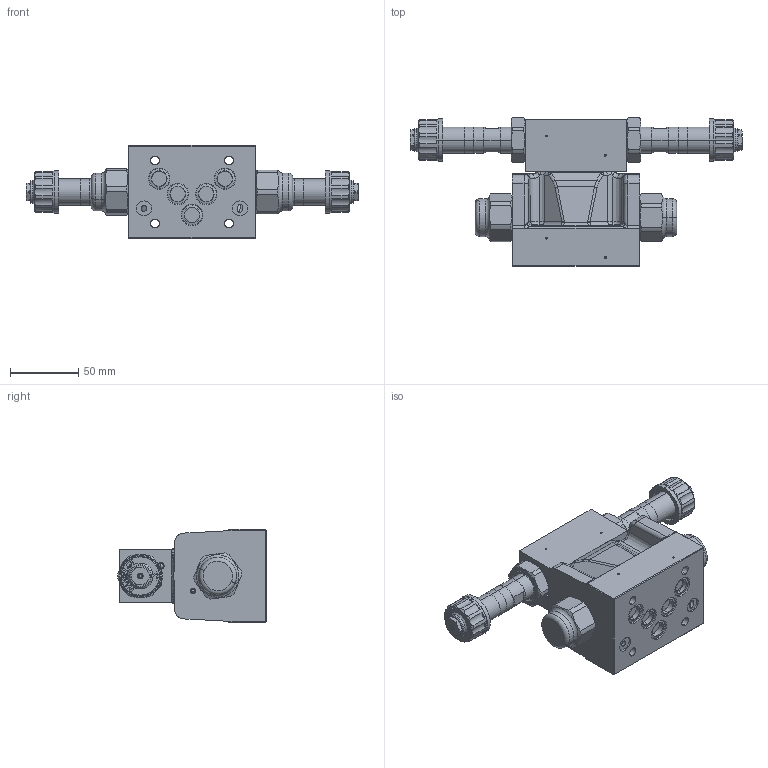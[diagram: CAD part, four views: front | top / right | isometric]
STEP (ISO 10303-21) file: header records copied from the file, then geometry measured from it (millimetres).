
FILE_DESCRIPTION (( 'STEP AP214' ), '1' );
FILE_NAME ('WDPFA10-4_3-ti_ae_xi_xe.STEP', '2017-06-15T07:55:56', ( '' ), ( '' ), 'SwSTEP 2.0', 'SolidWorks 2016', '' );
FILE_SCHEMA (( 'AUTOMOTIVE_DESIGN' ));
Length unit declared in the file: millimetre
Products named in the file (1): WDPFA10-4_3-ti_ae_xi_xe
Bounding box: 242.4 x 108.59 x 68 mm (x, y, z)
Volume: 563987.2 mm3; surface area: 87756.1 mm2
Topology: 11 solids, 22 shells, 1534 faces, 3704 edges, 2297 vertices
Faces by surface type: plane 582, cylinder 441, cone 257, bspline 167, torus 47, sphere 40
Entity records: 69077 total; most frequent: CARTESIAN_POINT 17663, ORIENTED_EDGE 7288, DIRECTION 6902, EDGE_CURVE 3644, AXIS2_PLACEMENT_3D 2540, VERTEX_POINT 2297, VECTOR 1822, LINE 1822
